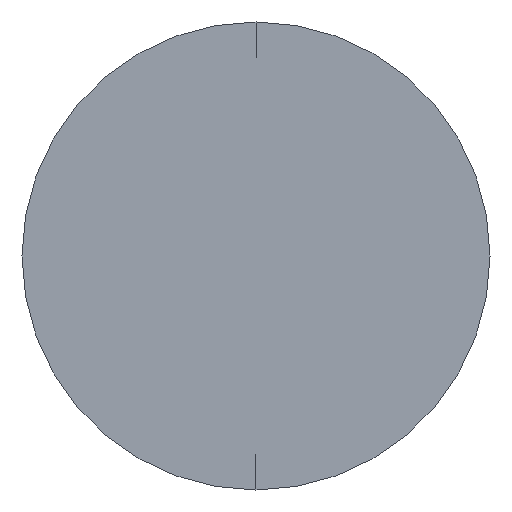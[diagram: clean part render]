
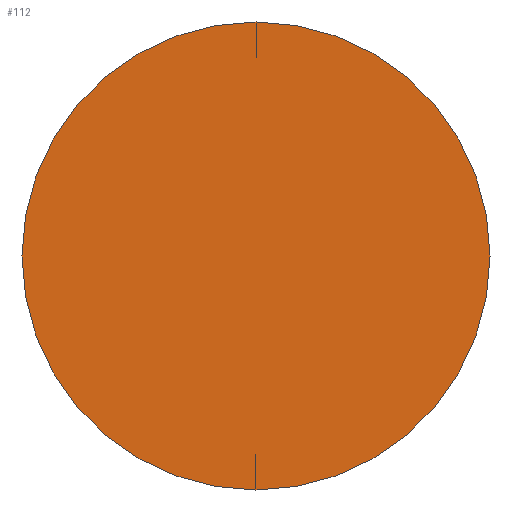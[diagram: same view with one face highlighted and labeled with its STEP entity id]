
A CAD part, left-side view. The second image highlights one B-rep face of the part: STEP entity #112.
In plain terms, the highlighted planar face has unit normal (-1, 0, 0).
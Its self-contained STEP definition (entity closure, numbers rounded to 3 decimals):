
#30 = VERTEX_POINT ( 'NONE', #59 ) ;
#58 = AXIS2_PLACEMENT_3D ( 'NONE', #147, #259, #213 ) ;
#59 = CARTESIAN_POINT ( 'NONE',  ( 0., 0., 1.1 ) ) ;
#63 = VERTEX_POINT ( 'NONE', #239 ) ;
#69 = AXIS2_PLACEMENT_3D ( 'NONE', #129, #264, #212 ) ;
#112 = ADVANCED_FACE ( 'NONE', ( #263 ), #198, .F. ) ;
#125 = EDGE_LOOP ( 'NONE', ( #255, #197 ) ) ;
#129 = CARTESIAN_POINT ( 'NONE',  ( 0., 0., 0. ) ) ;
#142 = CIRCLE ( 'NONE', #69, 1.1 ) ;
#147 = CARTESIAN_POINT ( 'NONE',  ( 0., 0., 0. ) ) ;
#171 = AXIS2_PLACEMENT_3D ( 'NONE', #222, #192, #188 ) ;
#188 = DIRECTION ( 'NONE',  ( 0., 0., -1. ) ) ;
#192 = DIRECTION ( 'NONE',  ( 1., 0., 0. ) ) ;
#197 = ORIENTED_EDGE ( 'NONE', *, *, #269, .T. ) ;
#198 = PLANE ( 'NONE',  #171 ) ;
#212 = DIRECTION ( 'NONE',  ( 0., 0., 1. ) ) ;
#213 = DIRECTION ( 'NONE',  ( 0., 0., 1. ) ) ;
#222 = CARTESIAN_POINT ( 'NONE',  ( 0., 0., 0. ) ) ;
#239 = CARTESIAN_POINT ( 'NONE',  ( 0., 0., -1.1 ) ) ;
#255 = ORIENTED_EDGE ( 'NONE', *, *, #290, .T. ) ;
#259 = DIRECTION ( 'NONE',  ( -1., 0., 0. ) ) ;
#263 = FACE_OUTER_BOUND ( 'NONE', #125, .T. ) ;
#264 = DIRECTION ( 'NONE',  ( -1., 0., 0. ) ) ;
#269 = EDGE_CURVE ( 'NONE', #63, #30, #142, .T. ) ;
#289 = CIRCLE ( 'NONE', #58, 1.1 ) ;
#290 = EDGE_CURVE ( 'NONE', #30, #63, #289, .T. ) ;
